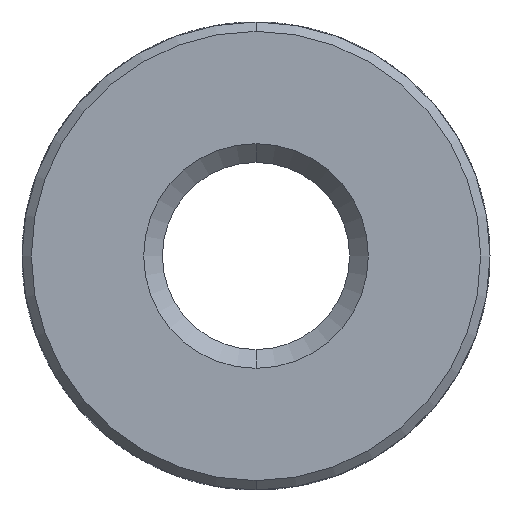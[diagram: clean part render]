
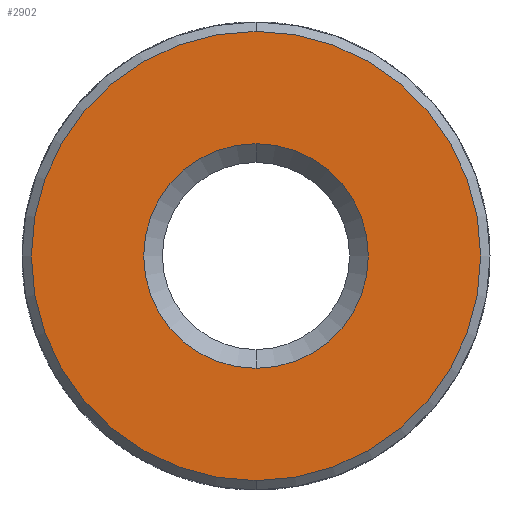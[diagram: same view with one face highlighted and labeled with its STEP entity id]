
A CAD part, front view. The second image highlights one B-rep face of the part: STEP entity #2902.
In plain terms, the highlighted planar face has unit normal (0, -1, 0).
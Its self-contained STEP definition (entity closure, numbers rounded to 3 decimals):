
#379 = ORIENTED_EDGE ( 'NONE', *, *, #3638, .T. ) ;
#586 = DIRECTION ( 'NONE',  ( 0., -1., 0. ) ) ;
#676 = VERTEX_POINT ( 'NONE', #4674 ) ;
#866 = DIRECTION ( 'NONE',  ( 0., 0., -1. ) ) ;
#910 = EDGE_CURVE ( 'NONE', #2470, #676, #5385, .T. ) ;
#955 = VERTEX_POINT ( 'NONE', #2829 ) ;
#1107 = ORIENTED_EDGE ( 'NONE', *, *, #2441, .T. ) ;
#1158 = CIRCLE ( 'NONE', #5344, 1.2 ) ;
#1209 = CARTESIAN_POINT ( 'NONE',  ( 0., -6.8, 2.4 ) ) ;
#1407 = CARTESIAN_POINT ( 'NONE',  ( 0., -6.8, 0. ) ) ;
#1485 = ORIENTED_EDGE ( 'NONE', *, *, #5244, .T. ) ;
#1907 = DIRECTION ( 'NONE',  ( 0., 0., -1. ) ) ;
#1999 = DIRECTION ( 'NONE',  ( 0., -1., 0. ) ) ;
#2002 = AXIS2_PLACEMENT_3D ( 'NONE', #5207, #5189, #2710 ) ;
#2019 = CARTESIAN_POINT ( 'NONE',  ( 0., -6.8, 0. ) ) ;
#2091 = CARTESIAN_POINT ( 'NONE',  ( 0., -6.8, -1.2 ) ) ;
#2141 = CIRCLE ( 'NONE', #3947, 2.4 ) ;
#2255 = DIRECTION ( 'NONE',  ( 0., 1., 0. ) ) ;
#2387 = FACE_OUTER_BOUND ( 'NONE', #3436, .T. ) ;
#2391 = AXIS2_PLACEMENT_3D ( 'NONE', #2694, #586, #5092 ) ;
#2441 = EDGE_CURVE ( 'NONE', #955, #3158, #4648, .T. ) ;
#2470 = VERTEX_POINT ( 'NONE', #1209 ) ;
#2694 = CARTESIAN_POINT ( 'NONE',  ( 0., -6.8, 2.5 ) ) ;
#2710 = DIRECTION ( 'NONE',  ( 0., 0., -1. ) ) ;
#2829 = CARTESIAN_POINT ( 'NONE',  ( 0., -6.8, 1.2 ) ) ;
#2902 = ADVANCED_FACE ( 'NONE', ( #2387, #4403 ), #3082, .T. ) ;
#2943 = ORIENTED_EDGE ( 'NONE', *, *, #910, .T. ) ;
#3082 = PLANE ( 'NONE',  #2391 ) ;
#3158 = VERTEX_POINT ( 'NONE', #2091 ) ;
#3436 = EDGE_LOOP ( 'NONE', ( #2943, #379 ) ) ;
#3629 = AXIS2_PLACEMENT_3D ( 'NONE', #2019, #1999, #4467 ) ;
#3638 = EDGE_CURVE ( 'NONE', #676, #2470, #2141, .T. ) ;
#3947 = AXIS2_PLACEMENT_3D ( 'NONE', #4577, #4978, #866 ) ;
#4403 = FACE_BOUND ( 'NONE', #4542, .T. ) ;
#4467 = DIRECTION ( 'NONE',  ( 0., 0., -1. ) ) ;
#4542 = EDGE_LOOP ( 'NONE', ( #1485, #1107 ) ) ;
#4577 = CARTESIAN_POINT ( 'NONE',  ( 0., -6.8, 0. ) ) ;
#4648 = CIRCLE ( 'NONE', #2002, 1.2 ) ;
#4674 = CARTESIAN_POINT ( 'NONE',  ( 0., -6.8, -2.4 ) ) ;
#4978 = DIRECTION ( 'NONE',  ( 0., -1., 0. ) ) ;
#5092 = DIRECTION ( 'NONE',  ( 0., 0., -1. ) ) ;
#5189 = DIRECTION ( 'NONE',  ( 0., 1., 0. ) ) ;
#5207 = CARTESIAN_POINT ( 'NONE',  ( 0., -6.8, 0. ) ) ;
#5244 = EDGE_CURVE ( 'NONE', #3158, #955, #1158, .T. ) ;
#5344 = AXIS2_PLACEMENT_3D ( 'NONE', #1407, #2255, #1907 ) ;
#5385 = CIRCLE ( 'NONE', #3629, 2.4 ) ;
